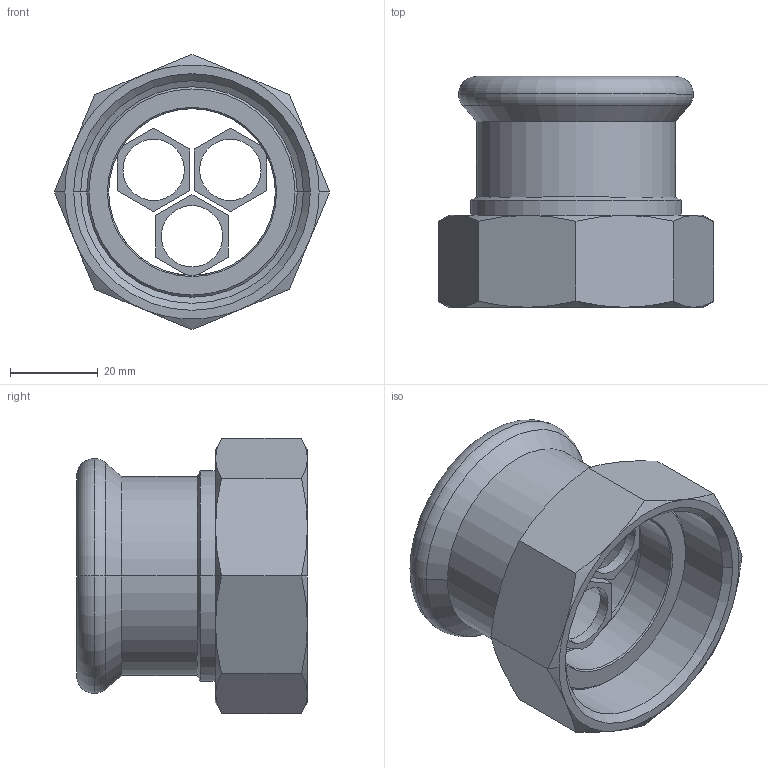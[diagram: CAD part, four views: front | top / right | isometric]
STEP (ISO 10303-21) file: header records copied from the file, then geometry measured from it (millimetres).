
FILE_DESCRIPTION(('OneSpaceDesigner STEP Export'),'2;1');
FILE_NAME('R2704 42xG1 3-4.stp','2010-06-09T10:07:53',(''),(''),'OneSpace Designer STEP processor for AP214 (Solid Model)','OneSpace Modeling 15.00A 14-Mar-2007 (C) CoCreate Software GmbH','');
FILE_SCHEMA(('AUTOMOTIVE_DESIGN { 1 0 10303 214 1 1 1 1 }'));
Length unit declared in the file: millimetre
Products named in the file (2): R2704_42xG1.3-4
Assembly tree (1 placements, depth 2):
  R2704_42xG1.3-4
    R2704_42xG1.3-4
Bounding box: 62.78 x 52.69 x 62.78 mm (x, y, z)
Volume: 34860.3 mm3; surface area: 22825.1 mm2
Topology: 1 solids, 1 shells, 116 faces, 278 edges, 167 vertices
Faces by surface type: cone 41, plane 40, cylinder 27, torus 8
Entity records: 4172 total; most frequent: CARTESIAN_POINT 1859, ORIENTED_EDGE 556, DIRECTION 347, EDGE_CURVE 278, VERTEX_POINT 167, VECTOR 129, LINE 129, EDGE_LOOP 127
